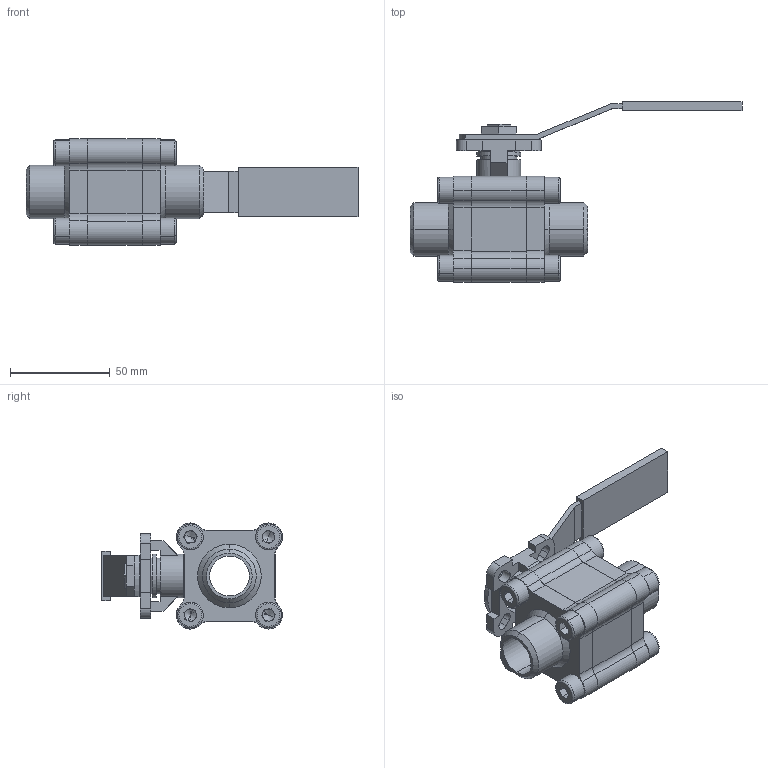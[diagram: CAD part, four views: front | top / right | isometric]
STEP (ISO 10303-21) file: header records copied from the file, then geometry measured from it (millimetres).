
FILE_DESCRIPTION (( 'STEP AP214' ), '1' );
FILE_NAME ('S33D DN20 BW HB.step', '2010-10-27T14:40:38', ( '' ), ( '' ), 'SwSTEP 2.0', 'SolidWorks 2010', '' );
FILE_SCHEMA (( 'AUTOMOTIVE_DESIGN' ));
Length unit declared in the file: millimetre
Products named in the file (5): S33D KK DN20 PN100; S33D Flens Buttweld DN20; DIN 912 M8 x 20 --- 20N_DIN 912 M8 x 20 --- 20N; Hendel S33D DN15; S33D DN20 BW HB
Assembly tree (12 placements, depth 2):
  S33D DN20 BW HB
    DIN 912 M8 x 20 --- 20N_DIN 912 M8 x 20 --- 20N  x8
    S33D KK DN20 PN100
    S33D Flens Buttweld DN20  x2
    Hendel S33D DN15
Bounding box: 166.51 x 90.68 x 53.17 mm (x, y, z)
Volume: 135880.3 mm3; surface area: 56911 mm2
Topology: 12 solids, 12 shells, 449 faces, 1094 edges, 676 vertices
Faces by surface type: plane 238, cylinder 139, cone 40, torus 32
Entity records: 7293 total; most frequent: DIRECTION 1270, CARTESIAN_POINT 1219, ORIENTED_EDGE 1176, EDGE_CURVE 588, AXIS2_PLACEMENT_3D 448, VERTEX_POINT 381, LINE 374, VECTOR 374
